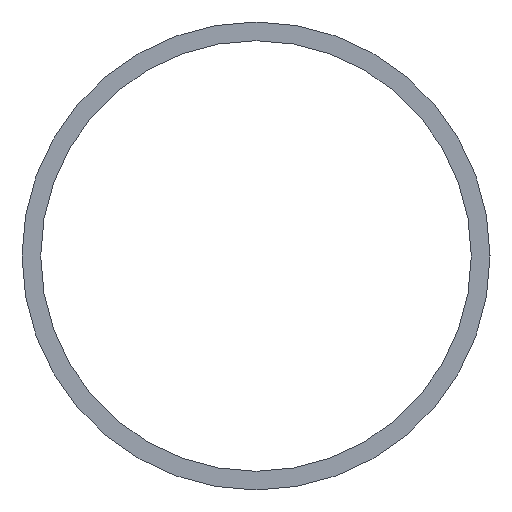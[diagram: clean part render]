
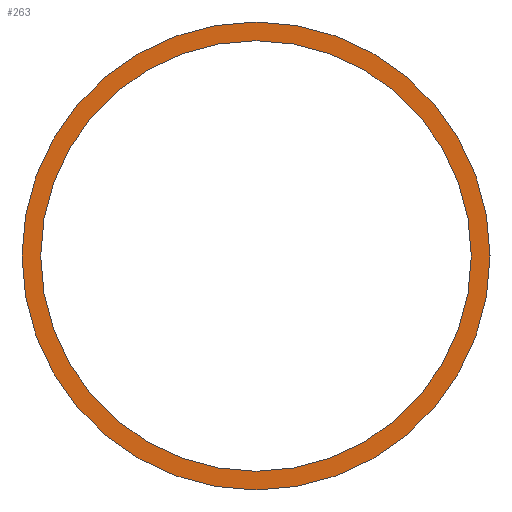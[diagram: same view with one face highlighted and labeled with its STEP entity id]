
A CAD part, left-side view. The second image highlights one B-rep face of the part: STEP entity #263.
In plain terms, the highlighted planar face has unit normal (-1, 0, 0).
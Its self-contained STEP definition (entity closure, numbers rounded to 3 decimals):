
#22 = AXIS2_PLACEMENT_3D ( 'NONE', #107, #240, #265 ) ;
#33 = DIRECTION ( 'NONE',  ( 1., 0., 0. ) ) ;
#51 = CARTESIAN_POINT ( 'NONE',  ( 0., 0., 0. ) ) ;
#58 = ORIENTED_EDGE ( 'NONE', *, *, #226, .F. ) ;
#59 = EDGE_LOOP ( 'NONE', ( #168, #179 ) ) ;
#60 = FACE_OUTER_BOUND ( 'NONE', #214, .T. ) ;
#63 = DIRECTION ( 'NONE',  ( 1., 0., 0. ) ) ;
#65 = CARTESIAN_POINT ( 'NONE',  ( 0., 0., 23. ) ) ;
#75 = CARTESIAN_POINT ( 'NONE',  ( 0., 0., 0. ) ) ;
#82 = VERTEX_POINT ( 'NONE', #65 ) ;
#84 = PLANE ( 'NONE',  #152 ) ;
#91 = AXIS2_PLACEMENT_3D ( 'NONE', #75, #283, #123 ) ;
#99 = AXIS2_PLACEMENT_3D ( 'NONE', #185, #63, #203 ) ;
#103 = VERTEX_POINT ( 'NONE', #273 ) ;
#107 = CARTESIAN_POINT ( 'NONE',  ( 0., 0., 0. ) ) ;
#108 = AXIS2_PLACEMENT_3D ( 'NONE', #51, #33, #210 ) ;
#123 = DIRECTION ( 'NONE',  ( 0., 0., -1. ) ) ;
#144 = CIRCLE ( 'NONE', #22, 25. ) ;
#152 = AXIS2_PLACEMENT_3D ( 'NONE', #180, #176, #258 ) ;
#156 = FACE_BOUND ( 'NONE', #59, .T. ) ;
#166 = CIRCLE ( 'NONE', #108, 25. ) ;
#168 = ORIENTED_EDGE ( 'NONE', *, *, #171, .T. ) ;
#171 = EDGE_CURVE ( 'NONE', #82, #103, #195, .T. ) ;
#176 = DIRECTION ( 'NONE',  ( 1., 0., 0. ) ) ;
#177 = ORIENTED_EDGE ( 'NONE', *, *, #204, .F. ) ;
#179 = ORIENTED_EDGE ( 'NONE', *, *, #242, .T. ) ;
#180 = CARTESIAN_POINT ( 'NONE',  ( 0., 0., 0. ) ) ;
#185 = CARTESIAN_POINT ( 'NONE',  ( 0., 0., 0. ) ) ;
#191 = CIRCLE ( 'NONE', #99, 23. ) ;
#195 = CIRCLE ( 'NONE', #91, 23. ) ;
#203 = DIRECTION ( 'NONE',  ( 0., 0., -1. ) ) ;
#204 = EDGE_CURVE ( 'NONE', #282, #220, #166, .T. ) ;
#210 = DIRECTION ( 'NONE',  ( 0., 0., -1. ) ) ;
#214 = EDGE_LOOP ( 'NONE', ( #177, #58 ) ) ;
#220 = VERTEX_POINT ( 'NONE', #221 ) ;
#221 = CARTESIAN_POINT ( 'NONE',  ( 0., 0., -25. ) ) ;
#226 = EDGE_CURVE ( 'NONE', #220, #282, #144, .T. ) ;
#227 = CARTESIAN_POINT ( 'NONE',  ( 0., 0., 25. ) ) ;
#240 = DIRECTION ( 'NONE',  ( 1., 0., 0. ) ) ;
#242 = EDGE_CURVE ( 'NONE', #103, #82, #191, .T. ) ;
#258 = DIRECTION ( 'NONE',  ( 0., 0., -1. ) ) ;
#263 = ADVANCED_FACE ( 'NONE', ( #156, #60 ), #84, .F. ) ;
#265 = DIRECTION ( 'NONE',  ( 0., 0., -1. ) ) ;
#273 = CARTESIAN_POINT ( 'NONE',  ( 0., 0., -23. ) ) ;
#282 = VERTEX_POINT ( 'NONE', #227 ) ;
#283 = DIRECTION ( 'NONE',  ( 1., 0., 0. ) ) ;
